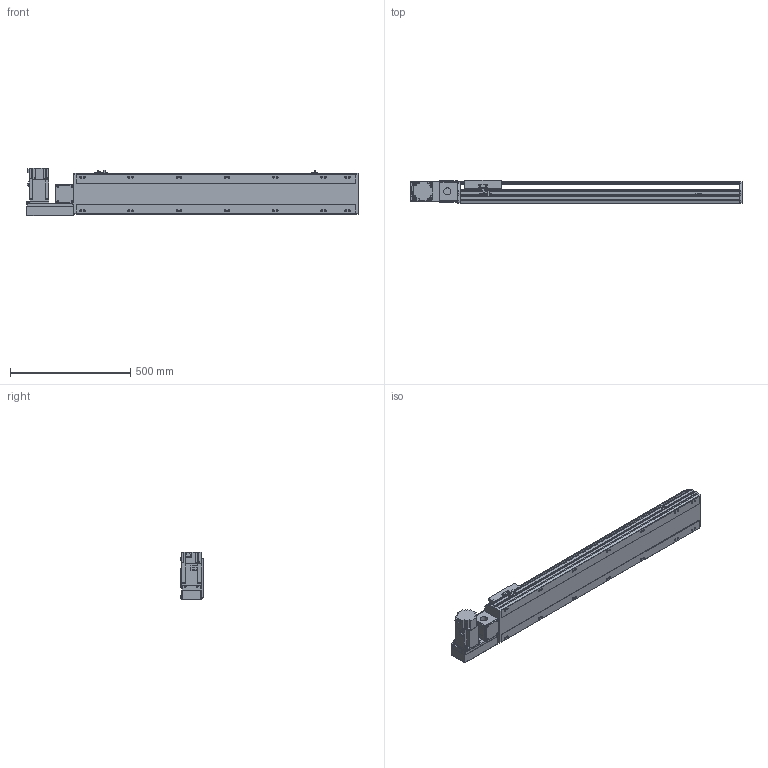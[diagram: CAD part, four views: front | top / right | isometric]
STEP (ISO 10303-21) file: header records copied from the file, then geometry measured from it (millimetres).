
FILE_DESCRIPTION( ( 'STEP AP214' ), '1' );
FILE_NAME( 'x:/temp/worker_3/temp/exporttempdir_5796_101_4rquV/format_0/PBS170-P40-S900-L-T75-C1-N(0).stp', '2022-06-07T06:54:48', ( 'License CC BY-ND 4.0' ), ( 'CADENAS' ), ' ', 'PARTsolutions', ' ' );
FILE_SCHEMA( ( 'AUTOMOTIVE_DESIGN { 1 0 10303 214 1 1 1 1 }' ) );
Length unit declared in the file: millimetre
Products named in the file (7): PBS170-P40-S900-L-T75-C1-N(0); _PBS170-S900()_body; _PBS170T-L_motors; _T75-p1; _PBS170_sliser; _PBS170_plant; _PBS170_sensor
Assembly tree (8 placements, depth 2):
  PBS170-P40-S900-L-T75-C1-N(0)
    _PBS170-S900()_body
    _PBS170T-L_motors
    _T75-p1
    _PBS170_sliser
    _PBS170_plant
    _PBS170_sensor  x3
Bounding box: 1378 x 97 x 197.3 mm (x, y, z)
Volume: 10276813.7 mm3; surface area: 1354627.6 mm2
Topology: 8 solids, 8 shells, 1066 faces, 2835 edges, 1848 vertices
Faces by surface type: plane 681, cylinder 331, cone 44, sphere 8, torus 2
Full cylindrical faces by diameter (mm): 3.242 x4, 4 x2, 4.4 x4, 4.5 x6, 4.917 x4, 6 x9, 6.647 x22, 7 x2, 7.5 x4, 8 x8, 8.5 x14, 10 x4, 10.5 x14, 11 x2, 30 x2, 40 x1, 70 x1
Entity records: 39098 total; most frequent: CARTESIAN_POINT 6053, DIRECTION 5230, ORIENTED_EDGE 4968, EDGE_CURVE 2484, AXIS2_PLACEMENT_3D 1807, VERTEX_POINT 1706, LINE 1616, VECTOR 1616
